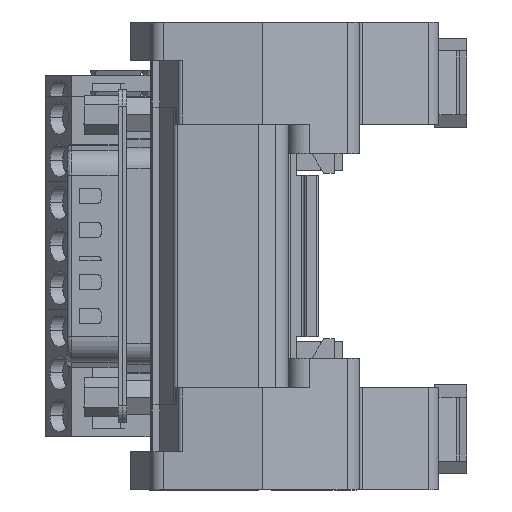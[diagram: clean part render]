
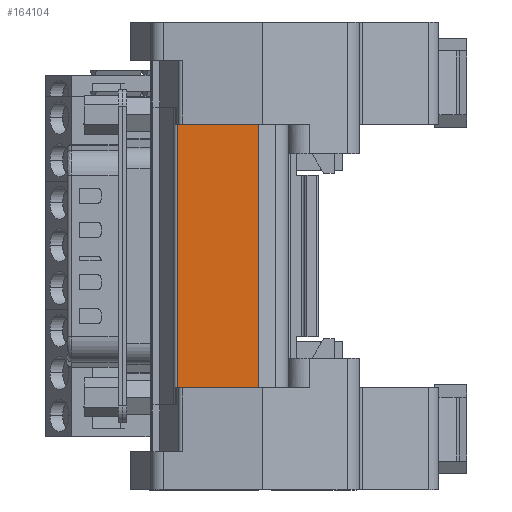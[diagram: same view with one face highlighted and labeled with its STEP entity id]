
A CAD part, left-side view. The second image highlights one B-rep face of the part: STEP entity #164104.
In plain terms, the highlighted planar face has unit normal (-1, 0, 0).
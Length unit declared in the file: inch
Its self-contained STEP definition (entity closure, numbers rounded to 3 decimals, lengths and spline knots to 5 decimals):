
#1043 = EDGE_CURVE ( 'NONE', #6234, #100095, #42669, .T. ) ;
#1694 = ORIENTED_EDGE ( 'NONE', *, *, #1043, .T. ) ;
#6234 = VERTEX_POINT ( 'NONE', #34303 ) ;
#15248 = ORIENTED_EDGE ( 'NONE', *, *, #36725, .F. ) ;
#27089 = ORIENTED_EDGE ( 'NONE', *, *, #192907, .F. ) ;
#29584 = ORIENTED_EDGE ( 'NONE', *, *, #41019, .T. ) ;
#30176 = DIRECTION ( 'NONE',  ( 0., 0., -1. ) ) ;
#31141 = CARTESIAN_POINT ( 'NONE',  ( -1.74213, -0.01675, -0.68898 ) ) ;
#34303 = CARTESIAN_POINT ( 'NONE',  ( -1.74213, -0.01675, 0.68898 ) ) ;
#34578 = DIRECTION ( 'NONE',  ( 1., 0., 0. ) ) ;
#36725 = EDGE_CURVE ( 'NONE', #6234, #147609, #156565, .T. ) ;
#41019 = EDGE_CURVE ( 'NONE', #100095, #82853, #189159, .T. ) ;
#42669 = LINE ( 'NONE', #171620, #131604 ) ;
#49328 = DIRECTION ( 'NONE',  ( 0., 0., -1. ) ) ;
#49562 = LINE ( 'NONE', #153153, #136203 ) ;
#59097 = DIRECTION ( 'NONE',  ( 0., -1., 0. ) ) ;
#64129 = PLANE ( 'NONE',  #151295 ) ;
#75533 = DIRECTION ( 'NONE',  ( 0., -1., 0. ) ) ;
#82853 = VERTEX_POINT ( 'NONE', #141421 ) ;
#86758 = FACE_OUTER_BOUND ( 'NONE', #191076, .T. ) ;
#89501 = CARTESIAN_POINT ( 'NONE',  ( -1.74213, -0.01675, -0.68898 ) ) ;
#100095 = VERTEX_POINT ( 'NONE', #31141 ) ;
#110920 = VECTOR ( 'NONE', #75533, 39.37008 ) ;
#123999 = CARTESIAN_POINT ( 'NONE',  ( -1.74213, -0.01675, 0.68898 ) ) ;
#131604 = VECTOR ( 'NONE', #49328, 39.37008 ) ;
#136203 = VECTOR ( 'NONE', #30176, 39.37008 ) ;
#141421 = CARTESIAN_POINT ( 'NONE',  ( -1.74213, -0.3878, -0.68898 ) ) ;
#147609 = VERTEX_POINT ( 'NONE', #173524 ) ;
#151295 = AXIS2_PLACEMENT_3D ( 'NONE', #123999, #34578, #171570 ) ;
#153153 = CARTESIAN_POINT ( 'NONE',  ( -1.74213, -0.3878, 0.68898 ) ) ;
#156565 = LINE ( 'NONE', #166866, #110920 ) ;
#164104 = ADVANCED_FACE ( 'NONE', ( #86758 ), #64129, .F. ) ;
#166866 = CARTESIAN_POINT ( 'NONE',  ( -1.74213, -0.01675, 0.68898 ) ) ;
#171570 = DIRECTION ( 'NONE',  ( 0., 1., 0. ) ) ;
#171620 = CARTESIAN_POINT ( 'NONE',  ( -1.74213, -0.01675, 0.68898 ) ) ;
#173524 = CARTESIAN_POINT ( 'NONE',  ( -1.74213, -0.3878, 0.68898 ) ) ;
#184345 = VECTOR ( 'NONE', #59097, 39.37008 ) ;
#189159 = LINE ( 'NONE', #89501, #184345 ) ;
#191076 = EDGE_LOOP ( 'NONE', ( #29584, #27089, #15248, #1694 ) ) ;
#192907 = EDGE_CURVE ( 'NONE', #147609, #82853, #49562, .T. ) ;
